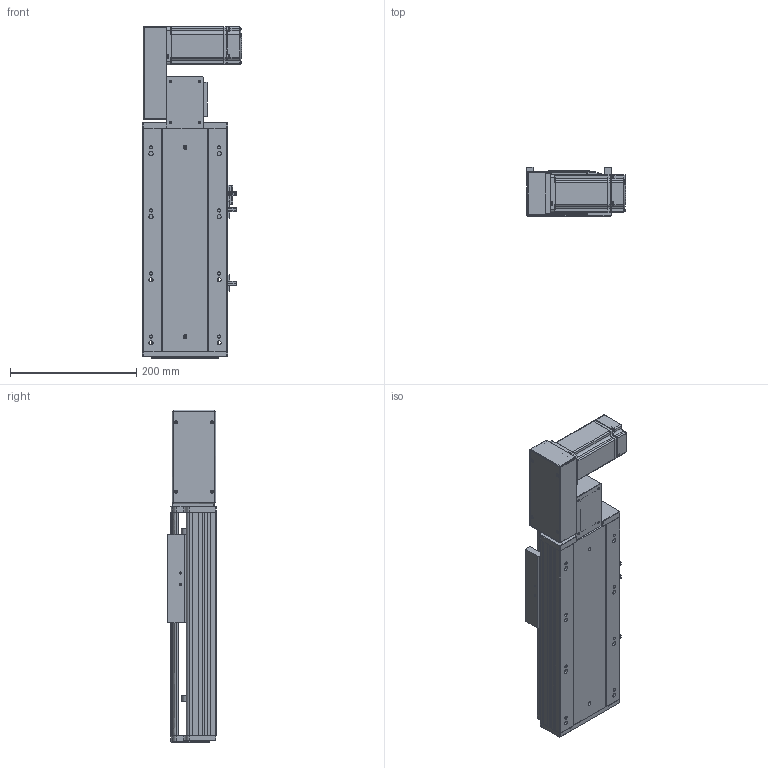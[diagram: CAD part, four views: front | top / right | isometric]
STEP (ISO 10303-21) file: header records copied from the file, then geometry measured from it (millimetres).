
FILE_DESCRIPTION (( 'STEP AP203' ), '1' );
FILE_NAME ('RY140-T-300-LK.SLDASM_100.step', '2021-03-01T06:34:23', ( '盈信电脑' ), ( '东莞市道滘镇水果街19号' ), 'SwSTEP 2.0', 'SolidWorks 2012', '' );
FILE_SCHEMA (( 'CONFIG_CONTROL_DESIGN' ));
Length unit declared in the file: millimetre
Products named in the file (18): RY140-T-300-LK.SLDASM_100; 滅袉蝶18-10; RY120-T蹟翐M4; RY140-T萇儂欶; RY140-T翋肮謫裔啣; RY140-T萇儂假蚾啣; RY120-T主同步轮轴承压盖; 15; 侂狟400W侜督萇儂; RY140-T翋肮祭謫盓傅釱; RY120-T肮祭湍揤踡輸1; RY120-T肮祭湍揤踡輸2; RY140-T-300-DL倰第奻裔啣_100; RY140綴裔啣; RY120外置感应片(140共用）; 覜茼ん672; RY140-T-300-DL倰第菁釱_100; RY140肮祭謫臏賑輸
Assembly tree (23 placements, depth 3):
  RY140-T-300-LK.SLDASM_100
    RY140-T-300-DL倰第菁釱_100
    RY140肮祭謫臏賑輸
    RY140-T-300-DL倰第奻裔啣_100
    RY140綴裔啣
    覜茼ん672  x3
    RY120外置感应片(140共用）
    RY120-T肮祭湍揤踡輸2
    RY120-T肮祭湍揤踡輸1
    RY140-T翋肮祭謫盓傅釱
    RY140-T萇儂假蚾啣
    侂狟400W侜督萇儂
      15
    RY120-T主同步轮轴承压盖
    RY120-T蹟翐M4  x4
    RY140-T萇儂欶
    滅袉蝶18-10  x2
    RY140-T翋肮謫裔啣
Bounding box: 157 x 78 x 526.5 mm (x, y, z)
Volume: 1843910.8 mm3; surface area: 645303.8 mm2
Topology: 22 solids, 22 shells, 2499 faces, 6809 edges, 4406 vertices
Faces by surface type: plane 1385, cylinder 856, cone 158, bspline 100
Entity records: 78941 total; most frequent: CARTESIAN_POINT 19349, ORIENTED_EDGE 12226, DIRECTION 11561, EDGE_CURVE 6113, VECTOR 4017, LINE 4017, VERTEX_POINT 4005, AXIS2_PLACEMENT_3D 3772
